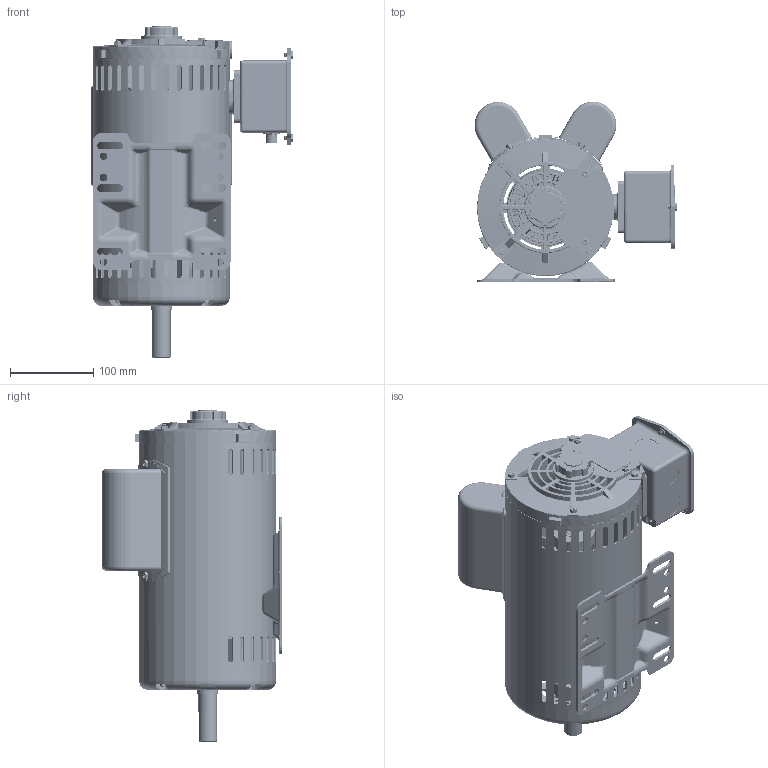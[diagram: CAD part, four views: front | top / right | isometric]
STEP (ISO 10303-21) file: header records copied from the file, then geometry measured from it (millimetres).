
FILE_DESCRIPTION (( 'STEP AP203' ), '1' );
FILE_NAME ('CDM-56HZ 5HP-2P.STEP', '2025-01-10T01:13:07', ( 'User' ), ( 'China' ), 'SwSTEP 2.0', 'SolidWorks 2019', '' );
FILE_SCHEMA (( 'CONFIG_CONTROL_DESIGN' ));
Products named in the file (1): CDM-56HZ 5HP-2P
Bounding box: 243.48 x 216.34 x 398.25 mm (x, y, z)
Volume: 1842671 mm3; surface area: 874966.5 mm2
Topology: 37 solids, 37 shells, 4290 faces, 10784 edges, 6626 vertices
Faces by surface type: cylinder 1686, plane 1261, cone 680, bspline 361, torus 252, sphere 50
Entity records: 167871 total; most frequent: CARTESIAN_POINT 68566, ORIENTED_EDGE 21460, DIRECTION 19866, EDGE_CURVE 10730, AXIS2_PLACEMENT_3D 7511, VERTEX_POINT 6613, VECTOR 4844, LINE 4844
